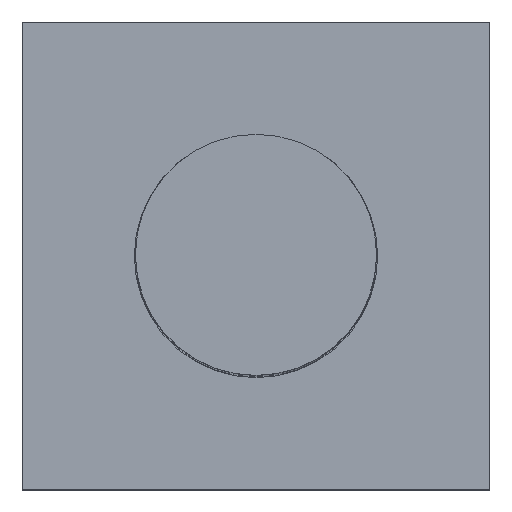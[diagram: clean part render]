
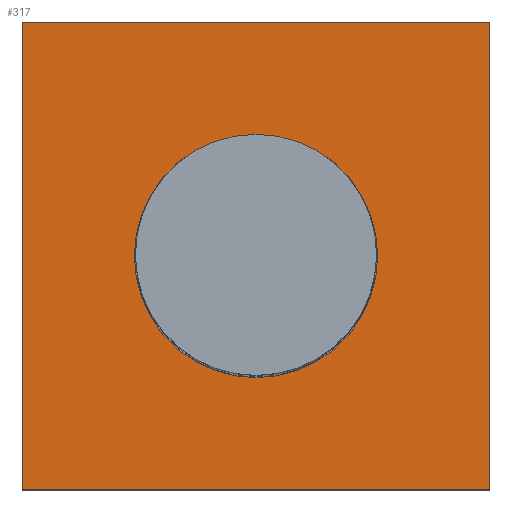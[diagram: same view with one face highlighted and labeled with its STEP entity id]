
A CAD part, top view. The second image highlights one B-rep face of the part: STEP entity #317.
In plain terms, the highlighted planar face has unit normal (0, 0, 1).
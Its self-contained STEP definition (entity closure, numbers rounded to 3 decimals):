
#253 = VERTEX_POINT('',#254);
#254 = CARTESIAN_POINT('',(-213.5,-213.5,0.));
#269 = VERTEX_POINT('',#270);
#270 = CARTESIAN_POINT('',(-213.5,213.5,0.));
#276 = EDGE_CURVE('',#253,#269,#277,.T.);
#277 = LINE('',#278,#279);
#278 = CARTESIAN_POINT('',(-213.5,-213.5,0.));
#279 = VECTOR('',#280,1.);
#280 = DIRECTION('',(0.,1.,0.));
#299 = EDGE_CURVE('',#253,#300,#302,.T.);
#300 = VERTEX_POINT('',#301);
#301 = CARTESIAN_POINT('',(213.5,-213.5,0.));
#302 = LINE('',#303,#304);
#303 = CARTESIAN_POINT('',(-213.5,-213.5,0.));
#304 = VECTOR('',#305,1.);
#305 = DIRECTION('',(1.,0.,0.));
#317 = ADVANCED_FACE('',(#318,#336),#347,.T.);
#318 = FACE_BOUND('',#319,.T.);
#319 = EDGE_LOOP('',(#320,#321,#322,#330));
#320 = ORIENTED_EDGE('',*,*,#276,.F.);
#321 = ORIENTED_EDGE('',*,*,#299,.T.);
#322 = ORIENTED_EDGE('',*,*,#323,.T.);
#323 = EDGE_CURVE('',#300,#324,#326,.T.);
#324 = VERTEX_POINT('',#325);
#325 = CARTESIAN_POINT('',(213.5,213.5,0.));
#326 = LINE('',#327,#328);
#327 = CARTESIAN_POINT('',(213.5,-213.5,0.));
#328 = VECTOR('',#329,1.);
#329 = DIRECTION('',(0.,1.,0.));
#330 = ORIENTED_EDGE('',*,*,#331,.F.);
#331 = EDGE_CURVE('',#269,#324,#332,.T.);
#332 = LINE('',#333,#334);
#333 = CARTESIAN_POINT('',(-213.5,213.5,0.));
#334 = VECTOR('',#335,1.);
#335 = DIRECTION('',(1.,0.,0.));
#336 = FACE_BOUND('',#337,.T.);
#337 = EDGE_LOOP('',(#338));
#338 = ORIENTED_EDGE('',*,*,#339,.F.);
#339 = EDGE_CURVE('',#340,#340,#342,.T.);
#340 = VERTEX_POINT('',#341);
#341 = CARTESIAN_POINT('',(111.,0.,0.));
#342 = CIRCLE('',#343,111.);
#343 = AXIS2_PLACEMENT_3D('',#344,#345,#346);
#344 = CARTESIAN_POINT('',(0.,0.,0.));
#345 = DIRECTION('',(0.,0.,1.));
#346 = DIRECTION('',(1.,0.,0.));
#347 = PLANE('',#348);
#348 = AXIS2_PLACEMENT_3D('',#349,#350,#351);
#349 = CARTESIAN_POINT('',(-213.5,-213.5,0.));
#350 = DIRECTION('',(0.,0.,1.));
#351 = DIRECTION('',(1.,0.,0.));
